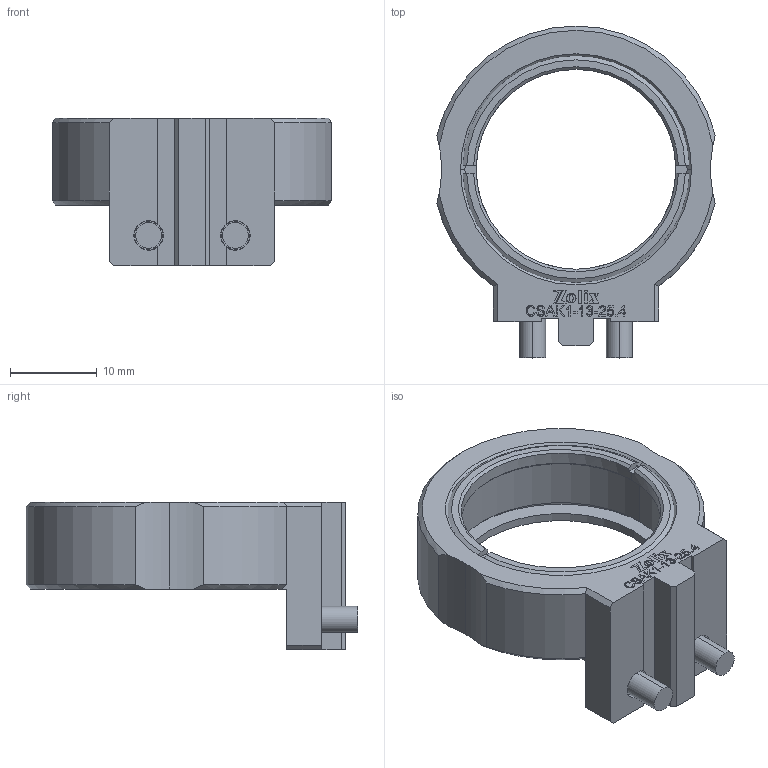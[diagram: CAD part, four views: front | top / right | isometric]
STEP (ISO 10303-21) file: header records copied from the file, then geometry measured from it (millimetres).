
FILE_DESCRIPTION (( 'STEP AP203' ), '1' );
FILE_NAME ('CSAK1-13-25.4.STEP', '2024-06-19T05:35:51', ( '' ), ( '' ), 'SwSTEP 2.0', 'SolidWorks 2021', '' );
FILE_SCHEMA (( 'CONFIG_CONTROL_DESIGN' ));
Length unit declared in the file: millimetre
Products named in the file (1): CSAK1-13-25.4
Bounding box: 32.05 x 38.2 x 17 mm (x, y, z)
Surface area: 3967.3 mm2 (no closed solid volume)
Topology: 0 solids, 14 shells, 162 faces, 880 edges, 726 vertices
Faces by surface type: plane 101, cylinder 26, cone 16, bspline 15, sphere 4
Entity records: 10730 total; most frequent: CARTESIAN_POINT 4224, ORIENTED_EDGE 1192, DIRECTION 1130, EDGE_CURVE 880, VERTEX_POINT 726, LINE 646, VECTOR 646, AXIS2_PLACEMENT_3D 242
